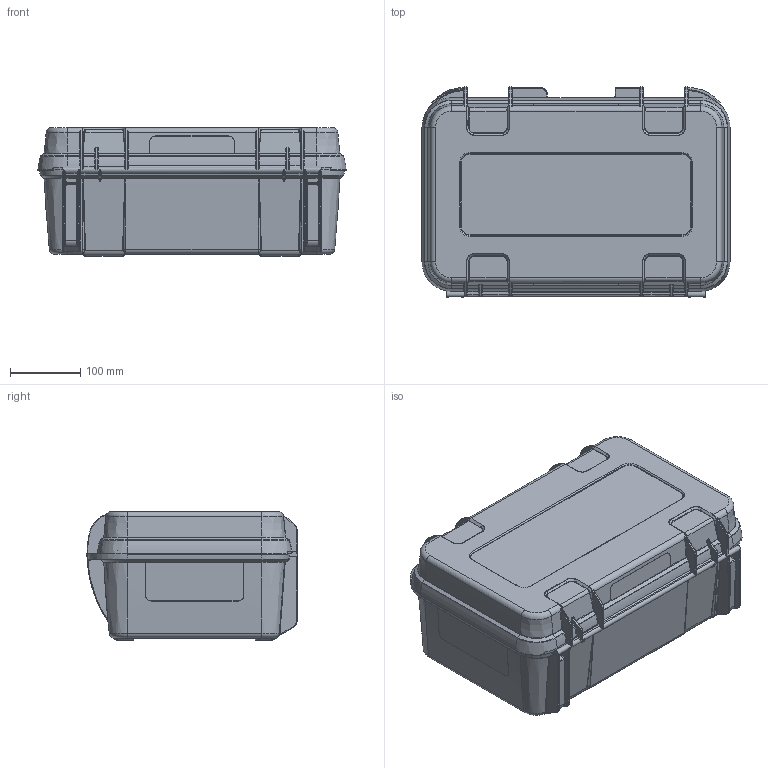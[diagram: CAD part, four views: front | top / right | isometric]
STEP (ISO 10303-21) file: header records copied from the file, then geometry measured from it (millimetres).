
FILE_DESCRIPTION(/* description */ (''),/* implementation_level */ '2;1');
FILE_NAME(/* name */ 'C70_Case_OT-UT.stp',/* time_stamp */ '2014-10-06T09:41:11+02:00',/* author */ (''),/* organization */ (''),/* preprocessor_version */ 'ST-DEVELOPER v15',/* originating_system */ 'SIEMENS PLM Software NX 8.5',/* authorisation */ '');
FILE_SCHEMA (('AUTOMOTIVE_DESIGN { 1 0 10303 214 3 1 1 1 }'));
Products named in the file (1): pk1A9099730gzk
Bounding box: 440 x 300 x 184 mm (x, y, z)
Volume: 1735186.9 mm3; surface area: 996542.4 mm2
Topology: 2 solids, 2 shells, 3191 faces, 7703 edges, 4435 vertices
Faces by surface type: bspline 1364, cylinder 913, plane 688, torus 103, cone 67, sphere 56
Entity records: 118824 total; most frequent: CARTESIAN_POINT 52192, ORIENTED_EDGE 15184, DIRECTION 12557, EDGE_CURVE 7592, AXIS2_PLACEMENT_3D 4972, VERTEX_POINT 4449, EDGE_LOOP 3235, ADVANCED_FACE 3191
